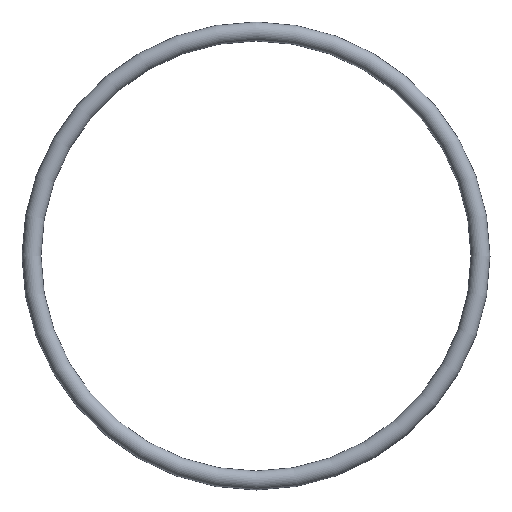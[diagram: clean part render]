
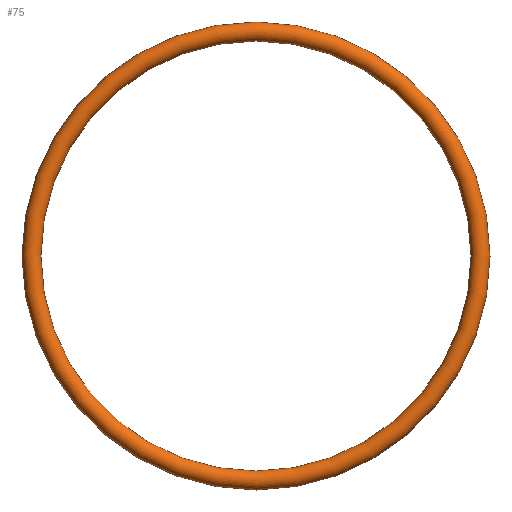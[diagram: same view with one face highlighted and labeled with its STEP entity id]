
A CAD part, front view. The second image highlights one B-rep face of the part: STEP entity #75.
In plain terms, the highlighted toroidal (fillet/blend) face has major radius 35.5 mm and minor radius 1.5 mm.
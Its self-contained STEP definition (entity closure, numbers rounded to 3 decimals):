
#75 = ADVANCED_FACE( '', ( #77 ), #78, .T. );
#77 = FACE_BOUND( '', #79, .T. );
#78 = TOROIDAL_SURFACE( '', #80, 35.5, 1.5 );
#79 = VERTEX_LOOP( '', #81 );
#80 = AXIS2_PLACEMENT_3D( '', #82, #83, #84 );
#81 = VERTEX_POINT( '', #85 );
#82 = CARTESIAN_POINT( '', ( 0., 0., 0. ) );
#83 = DIRECTION( '', ( 0., -1., 0. ) );
#84 = DIRECTION( '', ( 0., 0., -1. ) );
#85 = CARTESIAN_POINT( '', ( 0., 0., -37. ) );
